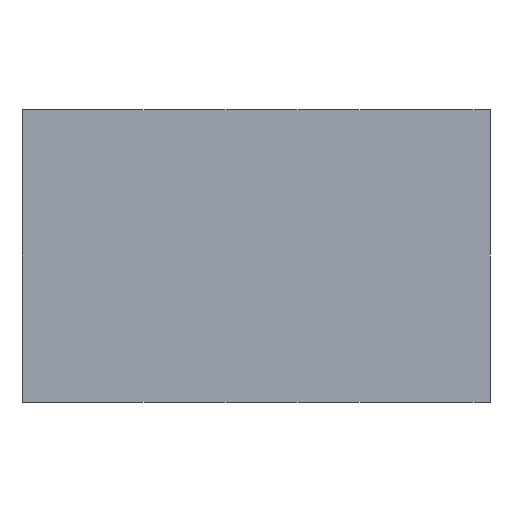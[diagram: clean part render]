
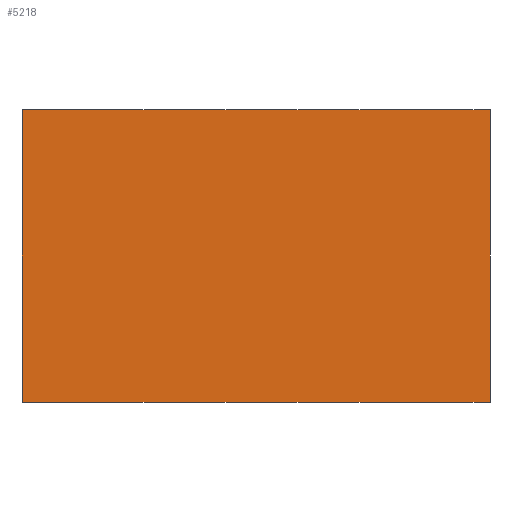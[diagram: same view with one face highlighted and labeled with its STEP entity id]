
A CAD part, front view. The second image highlights one B-rep face of the part: STEP entity #5218.
In plain terms, the highlighted planar face has unit normal (0, -1, 0).
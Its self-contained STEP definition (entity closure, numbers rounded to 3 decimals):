
#5143 = ORIENTED_EDGE ( 'NONE', *, *, #5196, .F. ) ;
#5196 = EDGE_CURVE ( 'NONE', #5197, #5222, #14447, .T. ) ;
#5197 = VERTEX_POINT ( 'NONE', #14443 ) ;
#5198 = ORIENTED_EDGE ( 'NONE', *, *, #5199, .F. ) ;
#5199 = EDGE_CURVE ( 'NONE', #5214, #5197, #14442, .T. ) ;
#5200 = ORIENTED_EDGE ( 'NONE', *, *, #5213, .T. ) ;
#5211 = VERTEX_POINT ( 'NONE', #14481 ) ;
#5213 = EDGE_CURVE ( 'NONE', #5214, #5211, #14480, .T. ) ;
#5214 = VERTEX_POINT ( 'NONE', #14475 ) ;
#5218 = ADVANCED_FACE ( 'NONE', ( #14470 ), #14469, .F. ) ;
#5219 = EDGE_LOOP ( 'NONE', ( #5220, #5143, #5198, #5200 ) ) ;
#5220 = ORIENTED_EDGE ( 'NONE', *, *, #5221, .T. ) ;
#5221 = EDGE_CURVE ( 'NONE', #5211, #5222, #14530, .T. ) ;
#5222 = VERTEX_POINT ( 'NONE', #14526 ) ;
#14439 = DIRECTION ( 'NONE',  ( 1., 0., 0. ) ) ;
#14440 = VECTOR ( 'NONE', #14439, 1000. ) ;
#14441 = CARTESIAN_POINT ( 'NONE',  ( 253.964, 145.981, 50. ) ) ;
#14442 = LINE ( 'NONE', #14441, #14440 ) ;
#14443 = CARTESIAN_POINT ( 'NONE',  ( 293.964, 145.981, 50. ) ) ;
#14444 = DIRECTION ( 'NONE',  ( 0., 0., -1. ) ) ;
#14445 = VECTOR ( 'NONE', #14444, 1000. ) ;
#14446 = CARTESIAN_POINT ( 'NONE',  ( 293.964, 145.981, 50. ) ) ;
#14447 = LINE ( 'NONE', #14446, #14445 ) ;
#14466 = DIRECTION ( 'NONE',  ( 0., 1., 0. ) ) ;
#14467 = CARTESIAN_POINT ( 'NONE',  ( 253.964, 145.981, 50. ) ) ;
#14468 = AXIS2_PLACEMENT_3D ( 'NONE', #14467, #14466, #14531 ) ;
#14469 = PLANE ( 'NONE',  #14468 ) ;
#14470 = FACE_OUTER_BOUND ( 'NONE', #5219, .T. ) ;
#14475 = CARTESIAN_POINT ( 'NONE',  ( 213.964, 145.981, 50. ) ) ;
#14477 = DIRECTION ( 'NONE',  ( 0., 0., -1. ) ) ;
#14478 = VECTOR ( 'NONE', #14477, 1000. ) ;
#14479 = CARTESIAN_POINT ( 'NONE',  ( 213.964, 145.981, 50. ) ) ;
#14480 = LINE ( 'NONE', #14479, #14478 ) ;
#14481 = CARTESIAN_POINT ( 'NONE',  ( 213.964, 145.981, 0. ) ) ;
#14526 = CARTESIAN_POINT ( 'NONE',  ( 293.964, 145.981, 0. ) ) ;
#14527 = DIRECTION ( 'NONE',  ( 1., 0., 0. ) ) ;
#14528 = VECTOR ( 'NONE', #14527, 1000. ) ;
#14529 = CARTESIAN_POINT ( 'NONE',  ( 253.964, 145.981, 0. ) ) ;
#14530 = LINE ( 'NONE', #14529, #14528 ) ;
#14531 = DIRECTION ( 'NONE',  ( 0., 0., 1. ) ) ;
